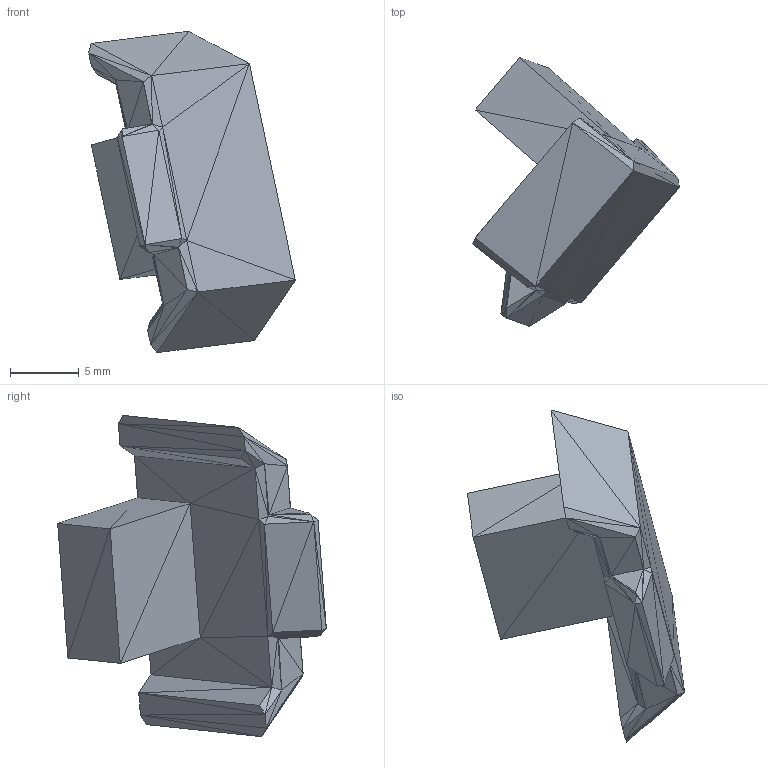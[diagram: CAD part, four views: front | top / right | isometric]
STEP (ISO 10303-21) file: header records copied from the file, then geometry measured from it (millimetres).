
FILE_DESCRIPTION((''),'2;1');
FILE_NAME('Thumb K2', '2025-03-27T08:07:31', (''), (''), 'ImageToStl.com STEP Converter','', '');
FILE_SCHEMA(('AUTOMOTIVE_DESIGN_CC2'));
Length unit declared in the file: metre
Products named in the file (1): product0
Bounding box: 15 x 19.49 x 23.31 mm (x, y, z)
Surface area: 1070.9 mm2 (no closed solid volume)
Topology: 0 solids, 116 shells, 116 faces, 348 edges, 60 vertices
Faces by surface type: plane 116
Entity records: 2823 total; most frequent: DIRECTION 582, ORIENTED_EDGE 348, EDGE_CURVE 348, LINE 348, VECTOR 348, AXIS2_PLACEMENT_3D 117, STYLED_ITEM 117, FACE_SURFACE 116
